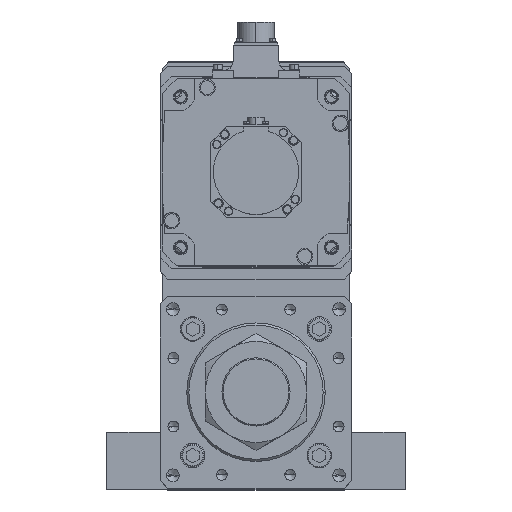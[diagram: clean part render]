
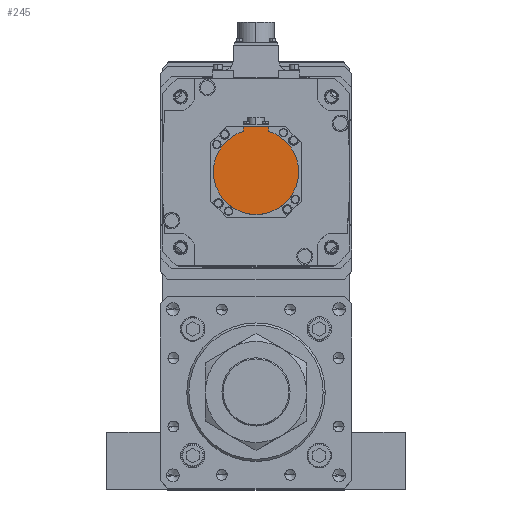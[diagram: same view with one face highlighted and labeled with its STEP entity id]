
A CAD part, top view. The second image highlights one B-rep face of the part: STEP entity #245.
In plain terms, the highlighted planar face has unit normal (0, 0, 1) as drawn and (0, 0, -1) by its records, which use the part's own axes.
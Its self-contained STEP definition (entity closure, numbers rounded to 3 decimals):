
#245 = ADVANCED_FACE ( 'NONE', ( #13413 ), #50990, .F. ) ;
#1191 = LINE ( 'NONE', #34454, #7015 ) ;
#1320 = ORIENTED_EDGE ( 'NONE', *, *, #46657, .T. ) ;
#1612 = ORIENTED_EDGE ( 'NONE', *, *, #51189, .F. ) ;
#1691 = VECTOR ( 'NONE', #3389, 1000. ) ;
#3115 = EDGE_LOOP ( 'NONE', ( #1320, #1612, #47226, #49288, #31412, #41432 ) ) ;
#3389 = DIRECTION ( 'NONE',  ( 0., 1., 0. ) ) ;
#3572 = EDGE_CURVE ( 'NONE', #15438, #21134, #1191, .T. ) ;
#5494 = DIRECTION ( 'NONE',  ( 0., 0., 1. ) ) ;
#6424 = DIRECTION ( 'NONE',  ( 1., 0., 0. ) ) ;
#6940 = VERTEX_POINT ( 'NONE', #35737 ) ;
#7015 = VECTOR ( 'NONE', #10844, 1000. ) ;
#7682 = CARTESIAN_POINT ( 'NONE',  ( -12., -40.329, -178.5 ) ) ;
#7835 = CIRCLE ( 'NONE', #35280, 40. ) ;
#9293 = AXIS2_PLACEMENT_3D ( 'NONE', #41371, #29571, #25563 ) ;
#10844 = DIRECTION ( 'NONE',  ( -1., 0., 0. ) ) ;
#12684 = LINE ( 'NONE', #7682, #1691 ) ;
#13039 = CARTESIAN_POINT ( 'NONE',  ( -12., -42.5, -178.5 ) ) ;
#13413 = FACE_OUTER_BOUND ( 'NONE', #3115, .T. ) ;
#14905 = DIRECTION ( 'NONE',  ( 0., 0., 1. ) ) ;
#15438 = VERTEX_POINT ( 'NONE', #24786 ) ;
#15756 = CARTESIAN_POINT ( 'NONE',  ( 12., -38.158, -178.5 ) ) ;
#16846 = CARTESIAN_POINT ( 'NONE',  ( 40., 0., -178.5 ) ) ;
#16895 = CARTESIAN_POINT ( 'NONE',  ( 0., 0., -178.5 ) ) ;
#18918 = EDGE_CURVE ( 'NONE', #38953, #35053, #20533, .T. ) ;
#20332 = AXIS2_PLACEMENT_3D ( 'NONE', #16895, #33477, #32905 ) ;
#20533 = CIRCLE ( 'NONE', #20332, 40. ) ;
#21134 = VERTEX_POINT ( 'NONE', #13039 ) ;
#23645 = EDGE_CURVE ( 'NONE', #15438, #38953, #26019, .T. ) ;
#24786 = CARTESIAN_POINT ( 'NONE',  ( 12., -42.5, -178.5 ) ) ;
#25563 = DIRECTION ( 'NONE',  ( 1., 0., 0. ) ) ;
#25743 = DIRECTION ( 'NONE',  ( 0., 1., 0. ) ) ;
#26019 = LINE ( 'NONE', #41914, #38369 ) ;
#26149 = DIRECTION ( 'NONE',  ( 1., 0., 0. ) ) ;
#26697 = VERTEX_POINT ( 'NONE', #52482 ) ;
#29571 = DIRECTION ( 'NONE',  ( 0., 0., 1. ) ) ;
#30255 = EDGE_CURVE ( 'NONE', #35053, #6940, #47801, .T. ) ;
#30542 = CARTESIAN_POINT ( 'NONE',  ( 0., -1.249, -178.5 ) ) ;
#31412 = ORIENTED_EDGE ( 'NONE', *, *, #23645, .F. ) ;
#32905 = DIRECTION ( 'NONE',  ( 1., 0., 0. ) ) ;
#33477 = DIRECTION ( 'NONE',  ( 0., 0., 1. ) ) ;
#34454 = CARTESIAN_POINT ( 'NONE',  ( 0., -42.5, -178.5 ) ) ;
#35053 = VERTEX_POINT ( 'NONE', #16846 ) ;
#35280 = AXIS2_PLACEMENT_3D ( 'NONE', #43467, #14905, #6424 ) ;
#35737 = CARTESIAN_POINT ( 'NONE',  ( -40., 0., -178.5 ) ) ;
#38369 = VECTOR ( 'NONE', #25743, 1000. ) ;
#38953 = VERTEX_POINT ( 'NONE', #15756 ) ;
#41371 = CARTESIAN_POINT ( 'NONE',  ( 0., 0., -178.5 ) ) ;
#41432 = ORIENTED_EDGE ( 'NONE', *, *, #3572, .T. ) ;
#41914 = CARTESIAN_POINT ( 'NONE',  ( 12., -1.249, -178.5 ) ) ;
#42921 = AXIS2_PLACEMENT_3D ( 'NONE', #30542, #5494, #26149 ) ;
#43467 = CARTESIAN_POINT ( 'NONE',  ( 0., 0., -178.5 ) ) ;
#46657 = EDGE_CURVE ( 'NONE', #21134, #26697, #12684, .T. ) ;
#47226 = ORIENTED_EDGE ( 'NONE', *, *, #30255, .F. ) ;
#47801 = CIRCLE ( 'NONE', #9293, 40. ) ;
#49288 = ORIENTED_EDGE ( 'NONE', *, *, #18918, .F. ) ;
#50990 = PLANE ( 'NONE',  #42921 ) ;
#51189 = EDGE_CURVE ( 'NONE', #6940, #26697, #7835, .T. ) ;
#52482 = CARTESIAN_POINT ( 'NONE',  ( -12., -38.158, -178.5 ) ) ;
